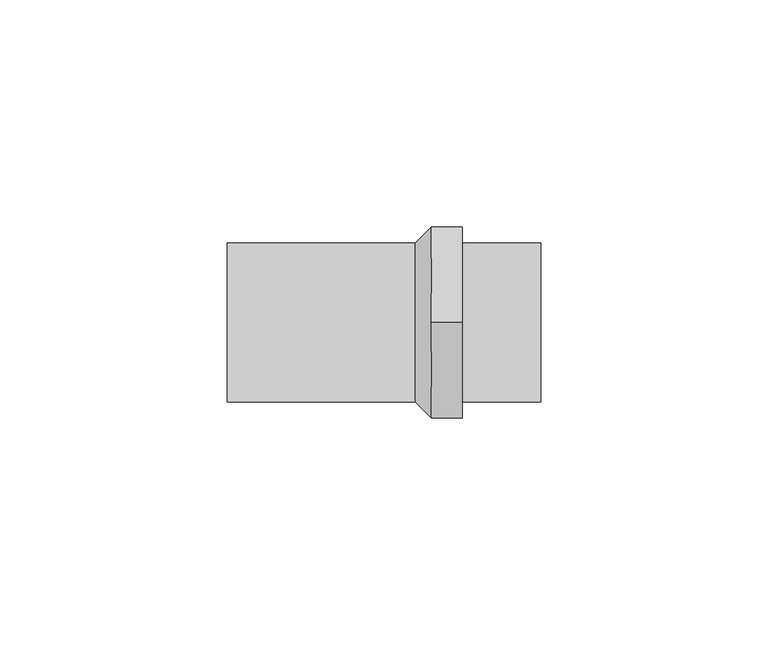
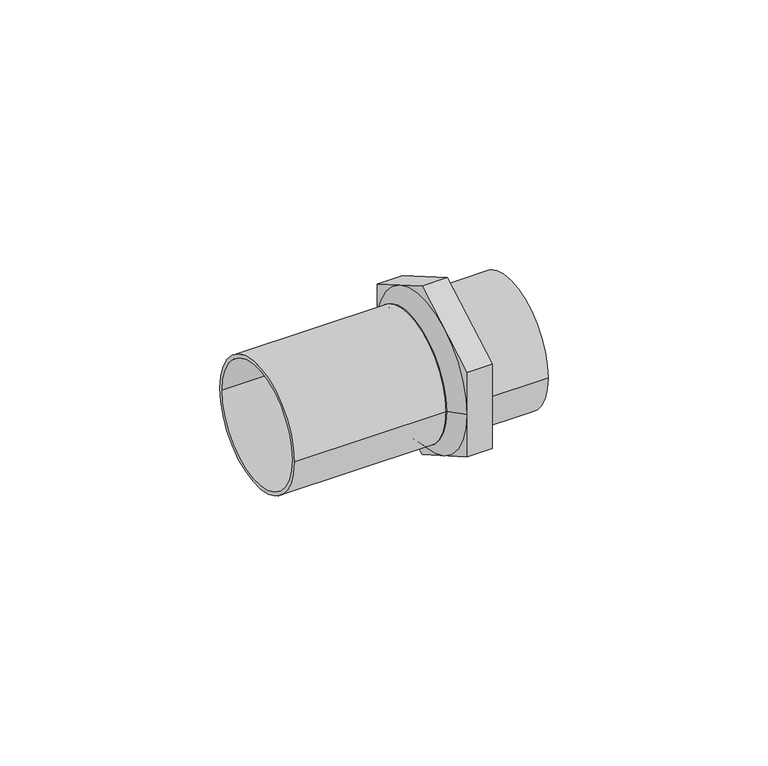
"""IFC4 building model written with IfcOpenShell, lengths in millimetres: pipe fitting geometry, VALTEC_VTi.906.I_Вставка с наружной резьбой нержавеющая сталь : VTi.906.I."""

from ifc_helpers import new_model, si_unit, point, frame, origin, origin_2d, place, context, project, spatial, polyline, circle_curve, trimmed, segment, composite_curve, outline, extrude, source, transform, mapped, element, save
from ifc_brep_helpers import plane_surface, revolved_surface, advanced_brep


def pipe_fitting_650baffc(model_context):
    return source(origin(), model_context, "Body", "SolidModel", [
        extrude(outline(composite_curve([segment(trimmed(circle_curve(origin_2d(), 17.5), [point((-17.5, 0.0))], [point((17.5, 0.0))], False, "CARTESIAN"), True, "CONTINUOUS"), segment(trimmed(circle_curve(origin_2d(), 17.5), [point((17.5, 0.0))], [point((-17.5, 0.0))], False, "CARTESIAN"), True, "CONTINUOUS")], self_intersect=False), holes=[composite_curve([segment(trimmed(circle_curve(origin_2d(), 16.0), [point((-16.0, 0.0))], [point((16.0, 0.0))], True, "CARTESIAN"), True, "CONTINUOUS"), segment(trimmed(circle_curve(origin_2d(), 16.0), [point((16.0, 0.0))], [point((-16.0, 0.0))], True, "CARTESIAN"), True, "CONTINUOUS")], self_intersect=False)]), frame((51.75, 0.0, 0.0), z_axis=(1.0, 0.0, 0.0), x_axis=(0.0, 1.0, 0.0)), (0.0, 0.0, 1.0), 17.25),
        advanced_brep(
        [(44.85, -21.0, 0.0), (44.85, 21.0, 0.0), (41.4, -17.5, 0.0), (41.4, 17.5, 0.0)],
        [
            (0, 1, circle_curve(frame((44.85, 0.0, 0.0), z_axis=(1.0, 0.0, 0.0), x_axis=(0.0, -1.0, 0.0)), 21.0)),
            (1, 0, circle_curve(frame((44.85, 0.0, 0.0), z_axis=(1.0, 0.0, 0.0), x_axis=(0.0, 1.0, 0.0)), 21.0)),
            (2, 3, circle_curve(frame((41.4, 0.0, 0.0), z_axis=(-1.0, 0.0, 0.0), x_axis=(0.0, 1.0, 0.0)), 17.5)),
            (3, 2, circle_curve(frame((41.4, 0.0, 0.0), z_axis=(-1.0, 0.0, 0.0), x_axis=(0.0, -1.0, 0.0)), 17.5)),
            (3, 1),
            (0, 2),
        ],
        [
            plane_surface(frame((44.85, 0.0, 0.0), z_axis=(1.0, 0.0, 0.0), x_axis=(0.0, 0.0, -1.0))),
            plane_surface(frame((41.4, 0.0, 0.0), z_axis=(-1.0, 0.0, 0.0), x_axis=(0.0, 0.0, -1.0))),
            revolved_surface(polyline([(41.4, 17.5, 0.0), (44.85, 21.0, 0.0)]), (24.15, 0.0, 0.0), (1.0, 0.0, 0.0)),
            revolved_surface(polyline([(41.4, -17.5, 0.0), (44.85, -21.0, 0.0)]), (24.15, 0.0, 0.0), (1.0, 0.0, 0.0)),
        ],
        [
            (0, [[1, 2]]),
            (1, [[3, 4]]),
            (2, [[-4, 5, -1, 6]]),
            (3, [[-3, -6, -2, -5]]),
        ],
    ),
        extrude(outline(polyline([(0.0, 24.2487113), (21.0, 12.1243557), (21.0, -12.1243557), (0.0, -24.2487113), (-21.0, -12.1243557), (-21.0, 12.1243557), (0.0, 24.2487113)]), holes=[composite_curve([segment(trimmed(circle_curve(origin_2d(), 16.0), [point((-16.0, 0.0))], [point((16.0, 0.0))], True, "CARTESIAN"), True, "CONTINUOUS"), segment(trimmed(circle_curve(origin_2d(), 16.0), [point((16.0, 0.0))], [point((-16.0, 0.0))], True, "CARTESIAN"), True, "CONTINUOUS")], self_intersect=False)]), frame((44.85, 0.0, 0.0), z_axis=(1.0, 0.0, 0.0), x_axis=(0.0, 1.0, 0.0)), (0.0, 0.0, 1.0), 6.9),
        extrude(outline(composite_curve([segment(trimmed(circle_curve(origin_2d(), 17.5), [point((-17.5, 0.0))], [point((17.5, 0.0))], False, "CARTESIAN"), True, "CONTINUOUS"), segment(trimmed(circle_curve(origin_2d(), 17.5), [point((17.5, 0.0))], [point((-17.5, 0.0))], False, "CARTESIAN"), True, "CONTINUOUS")], self_intersect=False), holes=[composite_curve([segment(trimmed(circle_curve(origin_2d(), 16.5), [point((-16.5, 0.0))], [point((16.5, 0.0))], True, "CARTESIAN"), True, "CONTINUOUS"), segment(trimmed(circle_curve(origin_2d(), 16.5), [point((16.5, 0.0))], [point((-16.5, 0.0))], True, "CARTESIAN"), True, "CONTINUOUS")], self_intersect=False)]), frame((0.0, 0.0, 0.0), z_axis=(1.0, 0.0, 0.0), x_axis=(0.0, 1.0, 0.0)), (0.0, 0.0, 1.0), 41.4),
    ])


if __name__ == "__main__":
    model = new_model("IFC4")
    model_context = context("Model", 3, world=origin())
    ifc_project = project(units=[si_unit("LENGTHUNIT", "METRE", prefix="MILLI")], contexts=[model_context])
    site = spatial("IfcSite", under=ifc_project)
    building = spatial("IfcBuilding", under=site)
    placement = place(None, origin())
    pipe_fitting_shape = pipe_fitting_650baffc(model_context)
    element("IfcPipeFitting", 1, ObjectType="VALTEC_VTi.906.I_Вставка с наружной резьбой нержавеющая сталь : VTi.906.I", at=placement, inside=building, context=model_context, shape_type="MappedRepresentation", body=[
        mapped(pipe_fitting_shape, transform((0.0, 0.0, 0.0), x_axis=(1.0, 0.0, 0.0), y_axis=(0.0, 1.0, 0.0), z_axis=(0.0, 0.0, 1.0))),
    ])
    save(model, "model.ifc")
